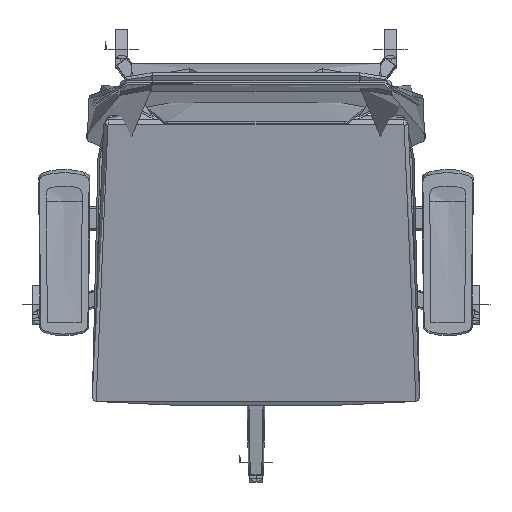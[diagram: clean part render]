
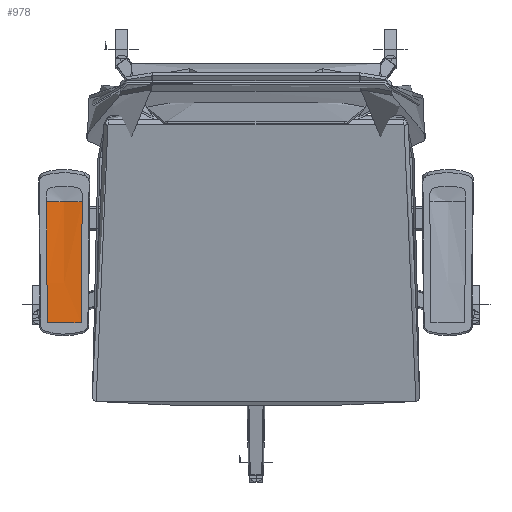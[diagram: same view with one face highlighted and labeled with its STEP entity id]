
A CAD part, top view. The second image highlights one B-rep face of the part: STEP entity #978.
In plain terms, the highlighted free-form (B-spline) face has degree [2, 3] with [3, 4] control points.
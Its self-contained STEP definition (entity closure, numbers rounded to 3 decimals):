
#978=ADVANCED_FACE('',(#1427),#7035,.T.);
#1427=FACE_OUTER_BOUND('',#1876,.T.);
#1876=EDGE_LOOP('',(#2780,#2781,#2782,#2783,#2784));
#2780=ORIENTED_EDGE('',*,*,#4473,.F.);
#2781=ORIENTED_EDGE('',*,*,#4457,.F.);
#2782=ORIENTED_EDGE('',*,*,#4455,.F.);
#2783=ORIENTED_EDGE('',*,*,#4454,.F.);
#2784=ORIENTED_EDGE('',*,*,#4456,.F.);
#4454=EDGE_CURVE('',#6516,#6517,#5298,.T.);
#4455=EDGE_CURVE('',#6517,#6515,#5299,.T.);
#4456=EDGE_CURVE('',#6518,#6516,#5300,.T.);
#4457=EDGE_CURVE('',#6515,#6519,#5301,.T.);
#4473=EDGE_CURVE('',#6519,#6518,#5953,.T.);
#5298=(
BOUNDED_CURVE()
B_SPLINE_CURVE(2,(#24119,#24120,#24121),.UNSPECIFIED.,.F.,.F.)
B_SPLINE_CURVE_WITH_KNOTS((3,3),(0.,26.864),.UNSPECIFIED.)
CURVE()
GEOMETRIC_REPRESENTATION_ITEM()
RATIONAL_B_SPLINE_CURVE((1.,0.994,1.))
REPRESENTATION_ITEM('')
);
#5299=(
BOUNDED_CURVE()
B_SPLINE_CURVE(2,(#24122,#24123,#24124),.UNSPECIFIED.,.F.,.F.)
B_SPLINE_CURVE_WITH_KNOTS((3,3),(-26.864,0.),.UNSPECIFIED.)
CURVE()
GEOMETRIC_REPRESENTATION_ITEM()
RATIONAL_B_SPLINE_CURVE((1.,0.994,1.))
REPRESENTATION_ITEM('')
);
#5300=(
BOUNDED_CURVE()
B_SPLINE_CURVE(3,(#24125,#24126,#24127,#24128),.UNSPECIFIED.,.F.,.F.)
B_SPLINE_CURVE_WITH_KNOTS((4,4),(0.,180.167),.UNSPECIFIED.)
CURVE()
GEOMETRIC_REPRESENTATION_ITEM()
RATIONAL_B_SPLINE_CURVE((1.,1.,1.,1.))
REPRESENTATION_ITEM('')
);
#5301=(
BOUNDED_CURVE()
B_SPLINE_CURVE(3,(#24129,#24130,#24131,#24132),.UNSPECIFIED.,.F.,.F.)
B_SPLINE_CURVE_WITH_KNOTS((4,4),(-180.167,0.),.UNSPECIFIED.)
CURVE()
GEOMETRIC_REPRESENTATION_ITEM()
RATIONAL_B_SPLINE_CURVE((1.,1.,1.,1.))
REPRESENTATION_ITEM('')
);
#5953=B_SPLINE_CURVE_WITH_KNOTS('',1,(#24194,#24195),.UNSPECIFIED.,.F.,
 .F.,(2,2),(0.,50.276),.UNSPECIFIED.);
#6515=VERTEX_POINT('',#24091);
#6516=VERTEX_POINT('',#24092);
#6517=VERTEX_POINT('',#24093);
#6518=VERTEX_POINT('',#24094);
#6519=VERTEX_POINT('',#24095);
#7035=(
BOUNDED_SURFACE()
B_SPLINE_SURFACE(2,3,((#24011,#24012,#24013,#24014),(#24015,#24016,#24017,
#24018),(#24019,#24020,#24021,#24022)),.UNSPECIFIED.,.F.,.F.,.F.)
B_SPLINE_SURFACE_WITH_KNOTS((3,3),(4,4),(-53.728,0.),(0.,180.167),
 .UNSPECIFIED.)
GEOMETRIC_REPRESENTATION_ITEM()
RATIONAL_B_SPLINE_SURFACE(((1.,1.,1.,1.),(0.975,0.975,
0.975,0.975),(1.,1.,1.,1.)))
REPRESENTATION_ITEM('')
SURFACE()
);
#24011=CARTESIAN_POINT('',(-309.828,-114.598,720.57));
#24012=CARTESIAN_POINT('',(-310.329,-54.569,718.85));
#24013=CARTESIAN_POINT('',(-310.829,5.46,717.129));
#24014=CARTESIAN_POINT('',(-311.33,65.489,715.409));
#24015=CARTESIAN_POINT('',(-284.691,-114.598,720.57));
#24016=CARTESIAN_POINT('',(-284.691,-54.567,718.9));
#24017=CARTESIAN_POINT('',(-284.691,5.291,711.219));
#24018=CARTESIAN_POINT('',(-284.691,65.315,709.334));
#24019=CARTESIAN_POINT('',(-259.553,-114.598,720.57));
#24020=CARTESIAN_POINT('',(-259.052,-54.569,718.85));
#24021=CARTESIAN_POINT('',(-258.552,5.46,717.129));
#24022=CARTESIAN_POINT('',(-258.051,65.489,715.409));
#24091=CARTESIAN_POINT('',(-258.051,65.489,715.409));
#24092=CARTESIAN_POINT('',(-311.33,65.489,715.409));
#24093=CARTESIAN_POINT('',(-284.691,65.403,712.41));
#24094=CARTESIAN_POINT('',(-309.828,-114.598,720.57));
#24095=CARTESIAN_POINT('',(-259.553,-114.598,720.57));
#24119=CARTESIAN_POINT('',(-311.33,65.489,715.409));
#24120=CARTESIAN_POINT('',(-298.179,65.403,712.41));
#24121=CARTESIAN_POINT('',(-284.691,65.403,712.41));
#24122=CARTESIAN_POINT('',(-284.691,65.403,712.41));
#24123=CARTESIAN_POINT('',(-271.202,65.403,712.41));
#24124=CARTESIAN_POINT('',(-258.051,65.489,715.409));
#24125=CARTESIAN_POINT('',(-309.828,-114.598,720.57));
#24126=CARTESIAN_POINT('',(-310.329,-54.569,718.85));
#24127=CARTESIAN_POINT('',(-310.829,5.46,717.129));
#24128=CARTESIAN_POINT('',(-311.33,65.489,715.409));
#24129=CARTESIAN_POINT('',(-258.051,65.489,715.409));
#24130=CARTESIAN_POINT('',(-258.552,5.46,717.129));
#24131=CARTESIAN_POINT('',(-259.052,-54.569,718.85));
#24132=CARTESIAN_POINT('',(-259.553,-114.598,720.57));
#24194=CARTESIAN_POINT('',(-259.553,-114.598,720.57));
#24195=CARTESIAN_POINT('',(-309.828,-114.598,720.57));
